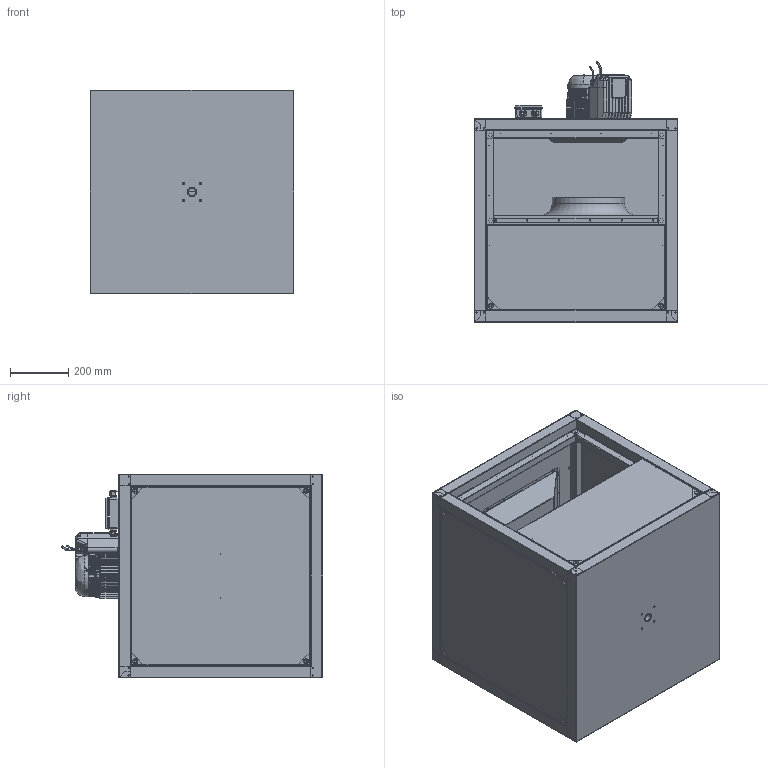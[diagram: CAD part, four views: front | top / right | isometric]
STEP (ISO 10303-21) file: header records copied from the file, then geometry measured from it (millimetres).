
FILE_DESCRIPTION (( 'STEP AP203' ), '1' );
FILE_NAME ('149406-00_MPC400ECTI30_step.step', '2018-10-29T09:12:30', ( '' ), ( '' ), 'SwSTEP 2.0', 'SolidWorks 2017', '' );
FILE_SCHEMA (( 'CONFIG_CONTROL_DESIGN' ));
Products named in the file (1): 149406-00_MPC400ECTI30_step
Bounding box: 700 x 896.85 x 700 mm (x, y, z)
Surface area: 8314064.6 mm2 (no closed solid volume)
Topology: 0 solids, 359 shells, 2143 faces, 10187 edges, 8146 vertices
Faces by surface type: plane 823, cylinder 622, bspline 374, cone 174, torus 150
Entity records: 127483 total; most frequent: CARTESIAN_POINT 50626, DIRECTION 15368, ORIENTED_EDGE 12994, EDGE_CURVE 10167, VERTEX_POINT 8146, AXIS2_PLACEMENT_3D 5448, LINE 4472, VECTOR 4472
